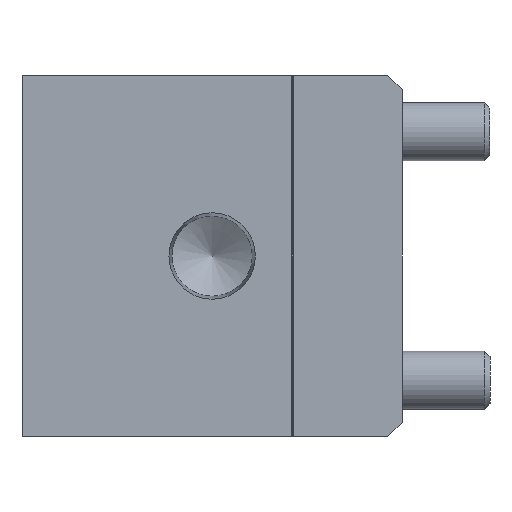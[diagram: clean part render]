
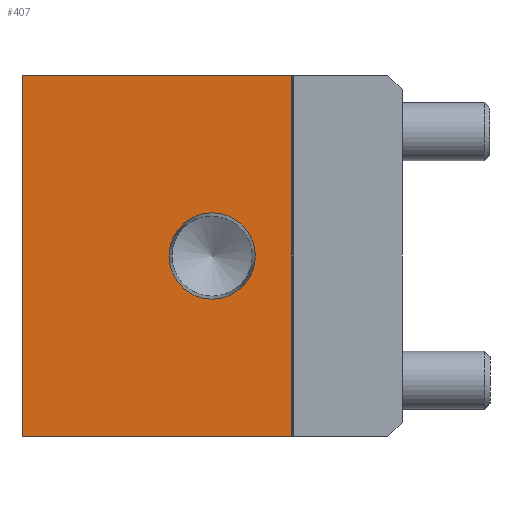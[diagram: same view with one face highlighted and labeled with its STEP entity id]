
A CAD part, left-side view. The second image highlights one B-rep face of the part: STEP entity #407.
In plain terms, the highlighted planar face has unit normal (-1, 0, 0).
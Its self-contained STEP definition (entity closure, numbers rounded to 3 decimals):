
#407 = ADVANCED_FACE( '', ( #917, #918 ), #919, .F. );
#917 = FACE_BOUND( '', #1608, .T. );
#918 = FACE_OUTER_BOUND( '', #1609, .T. );
#919 = PLANE( '', #1610 );
#1608 = EDGE_LOOP( '', ( #2466 ) );
#1609 = EDGE_LOOP( '', ( #2467, #2468, #2469, #2470 ) );
#1610 = AXIS2_PLACEMENT_3D( '', #2471, #2472, #2473 );
#2466 = ORIENTED_EDGE( '', *, *, #3697, .T. );
#2467 = ORIENTED_EDGE( '', *, *, #3868, .F. );
#2468 = ORIENTED_EDGE( '', *, *, #3869, .F. );
#2469 = ORIENTED_EDGE( '', *, *, #3870, .T. );
#2470 = ORIENTED_EDGE( '', *, *, #3871, .T. );
#2471 = CARTESIAN_POINT( '', ( 0., 52., 24.75 ) );
#2472 = DIRECTION( '', ( 1., 0., 0. ) );
#2473 = DIRECTION( '', ( 0., 0., -1. ) );
#3697 = EDGE_CURVE( '', #4283, #4283, #4284, .T. );
#3868 = EDGE_CURVE( '', #4567, #4568, #4569, .T. );
#3869 = EDGE_CURVE( '', #4570, #4567, #4571, .T. );
#3870 = EDGE_CURVE( '', #4570, #4572, #4573, .T. );
#3871 = EDGE_CURVE( '', #4572, #4568, #4574, .T. );
#4283 = VERTEX_POINT( '', #5103 );
#4284 = CIRCLE( '', #5104, 5.91 );
#4567 = VERTEX_POINT( '', #5481 );
#4568 = VERTEX_POINT( '', #5482 );
#4569 = LINE( '', #5483, #5484 );
#4570 = VERTEX_POINT( '', #5485 );
#4571 = LINE( '', #5486, #5487 );
#4572 = VERTEX_POINT( '', #5488 );
#4573 = LINE( '', #5489, #5490 );
#4574 = LINE( '', #5491, #5492 );
#5103 = CARTESIAN_POINT( '', ( 0., 26., -5.91 ) );
#5104 = AXIS2_PLACEMENT_3D( '', #6172, #6173, #6174 );
#5481 = CARTESIAN_POINT( '', ( 0., 15.1, 24.75 ) );
#5482 = CARTESIAN_POINT( '', ( 0., 15.1, -24.75 ) );
#5483 = CARTESIAN_POINT( '', ( 0., 15.1, 24.75 ) );
#5484 = VECTOR( '', #6368, 1000. );
#5485 = CARTESIAN_POINT( '', ( 0., 52., 24.75 ) );
#5486 = CARTESIAN_POINT( '', ( 0., 52., 24.75 ) );
#5487 = VECTOR( '', #6369, 1000. );
#5488 = CARTESIAN_POINT( '', ( 0., 52., -24.75 ) );
#5489 = CARTESIAN_POINT( '', ( 0., 52., 24.75 ) );
#5490 = VECTOR( '', #6370, 1000. );
#5491 = CARTESIAN_POINT( '', ( 0., 52., -24.75 ) );
#5492 = VECTOR( '', #6371, 1000. );
#6172 = CARTESIAN_POINT( '', ( 0., 26., 0. ) );
#6173 = DIRECTION( '', ( 1., 0., 0. ) );
#6174 = DIRECTION( '', ( 0., 0., -1. ) );
#6368 = DIRECTION( '', ( 0., 0., -1. ) );
#6369 = DIRECTION( '', ( 0., -1., 0. ) );
#6370 = DIRECTION( '', ( 0., 0., -1. ) );
#6371 = DIRECTION( '', ( 0., -1., 0. ) );
